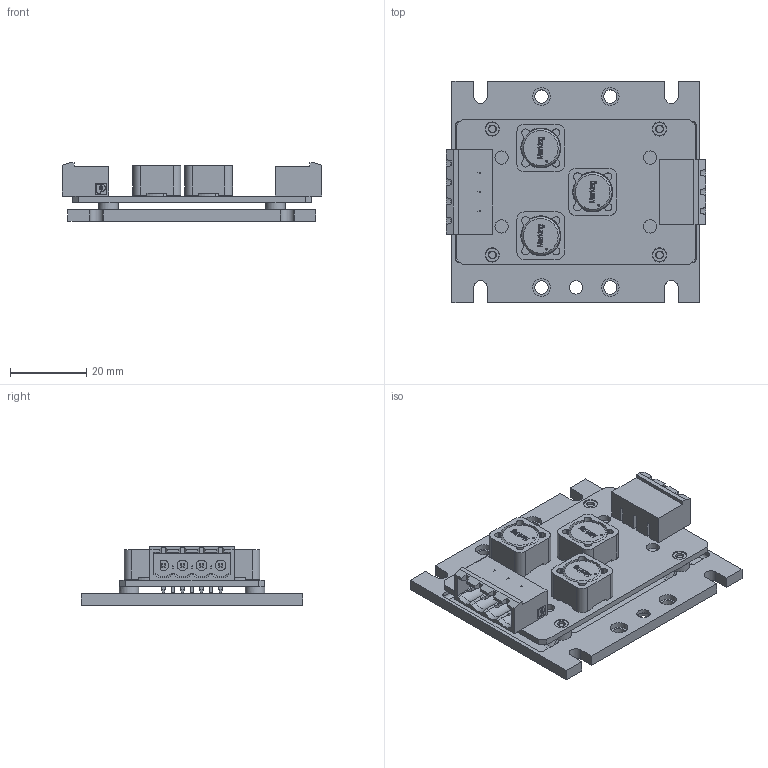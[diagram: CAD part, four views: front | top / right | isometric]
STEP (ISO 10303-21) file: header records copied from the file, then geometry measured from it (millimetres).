
FILE_DESCRIPTION(/* description */ (''),/* implementation_level */ '2;1');
FILE_NAME(/* name */ 'FILTER EFC 5008 S + 5010 S.stp',/* time_stamp */ '2020-08-07T09:21:38+02:00',/* author */ ('DR. FRITZ FAULHABER GmbH & Co. KG'),/* organization */ ('DR. FRITZ FAULHABER GmbH & Co. KG'),/* preprocessor_version */ 'ST-DEVELOPER v16.7',/* originating_system */ 'SIEMENS PLM Software NX 12.0',/* authorisation */ '');
FILE_SCHEMA (('AUTOMOTIVE_DESIGN { 1 0 10303 214 3 1 1 1 }'));
Length unit declared in the file: millimetre
Products named in the file (1): 012006_A_1-TP-00198
Bounding box: 67.95 x 58 x 15.34 mm (x, y, z)
Volume: 14576.5 mm3; surface area: 20724.2 mm2
Topology: 1 solids, 5 shells, 1083 faces, 2941 edges, 1909 vertices
Faces by surface type: plane 721, cylinder 246, extrusion 36, bspline 29, cone 27, sphere 12, torus 12
Full cylindrical faces by diameter (mm): 0.434 x1, 0.5 x3, 1.3 x7, 2.05 x4, 2.5 x4, 2.8 x3, 2.9 x4, 3.5 x13, 3.7 x4, 4.6 x4, 4.7 x4, 5.1 x4, 5.5 x4, 5.75 x3, 6.5 x1, 10 x3
Entity records: 38910 total; most frequent: CARTESIAN_POINT 12351, ORIENTED_EDGE 5506, DIRECTION 5187, EDGE_CURVE 2753, VECTOR 2037, LINE 2001, VERTEX_POINT 1852, AXIS2_PLACEMENT_3D 1575
